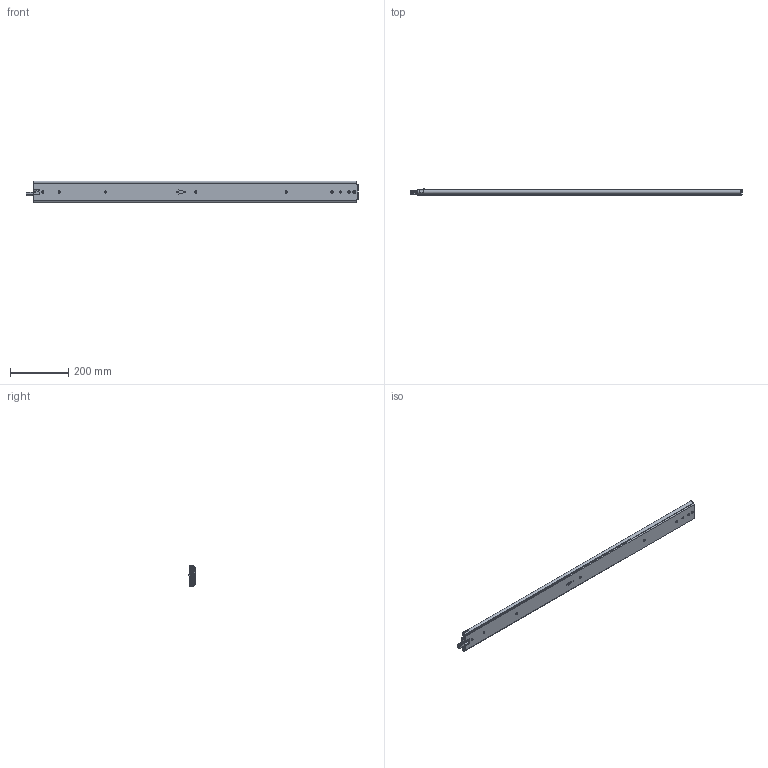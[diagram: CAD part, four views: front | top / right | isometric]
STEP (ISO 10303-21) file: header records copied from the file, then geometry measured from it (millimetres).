
FILE_DESCRIPTION((''),'2;1');
FILE_NAME('DG-76-3S-44ZUO_ASM','2023-05-11T',('jishu015'),(''),'PRO/ENGINEER BY PARAMETRIC TECHNOLOGY CORPORATION, 2010280','PRO/ENGINEER BY PARAMETRIC TECHNOLOGY CORPORATION, 2010280','');
FILE_SCHEMA(('CONFIG_CONTROL_DESIGN'));
Products named in the file (29): KP-76-04WAIKE-1816__________; 1076-WAIKEZIDANJIAO16__________; WAIK16___________ASM; 1076XIAOZHUTIAO-22516__________; 16__________; 1076XIAOZHUTIAO-17516___________ASM; KP-76-04ZHONGGUI1816__________; 76CHANGGUIZHONGGUIJIAO1621__; 3X6WODIN16__________; ZHONGGUIBAIKOU16__________; PJ-76-30_________; PJ-76-03_________; 76-XIAOZHUJIA-11_________; GANGZHU-XIAO_________; ZHUJIA-XIAO__________ASM; ZHONGGUI6___________ASM; KP-76-04NEIGUI1816__________; PJ-76-31_________; DAOGPIAN16__________; 1053-3SBANJ01_________; JIAO-11_________; 76XINSUOKOU_________; PJ-338_________; PJ-356_________; PJ-357_________; PJ-336_________; M4X4_________; NEIGUI16___________ASM; DG-76-3S-44ZUO_ASM
Assembly tree (88 placements, depth 4):
  DG-76-3S-44ZUO_ASM
    WAIK16___________ASM
      KP-76-04WAIKE-1816__________
      1076-WAIKEZIDANJIAO16__________  x2
    1076XIAOZHUTIAO-17516___________ASM  x2
      1076XIAOZHUTIAO-22516__________
      16__________
    ZHONGGUI6___________ASM
      KP-76-04ZHONGGUI1816__________
      76CHANGGUIZHONGGUIJIAO1621__
      3X6WODIN16__________
      ZHONGGUIBAIKOU16__________
      PJ-76-30_________
      PJ-76-03_________
      ZHUJIA-XIAO__________ASM
        76-XIAOZHUJIA-11_________
        GANGZHU-XIAO_________  x40
    NEIGUI16___________ASM
      KP-76-04NEIGUI1816__________
      PJ-76-31_________
      DAOGPIAN16__________
      1053-3SBANJ01_________
      JIAO-11_________
      76XINSUOKOU_________
      PJ-338_________
      PJ-356_________
      PJ-357_________
      PJ-336_________
      M4X4_________
Bounding box: 1143.52 x 20.7 x 75.3 mm (x, y, z)
Volume: 736001.8 mm3; surface area: 708199.1 mm2
Topology: 104 solids, 104 shells, 2517 faces, 7677 edges, 4851 vertices
Faces by surface type: plane 1299, cylinder 924, sphere 167, bspline 60, cone 28, extrusion 23, torus 16
Entity records: 80931 total; most frequent: CARTESIAN_POINT 21562, ORIENTED_EDGE 13030, DIRECTION 11738, EDGE_CURVE 6515, VERTEX_POINT 4247, AXIS2_PLACEMENT_3D 4066, VECTOR 3606, LINE 3583
